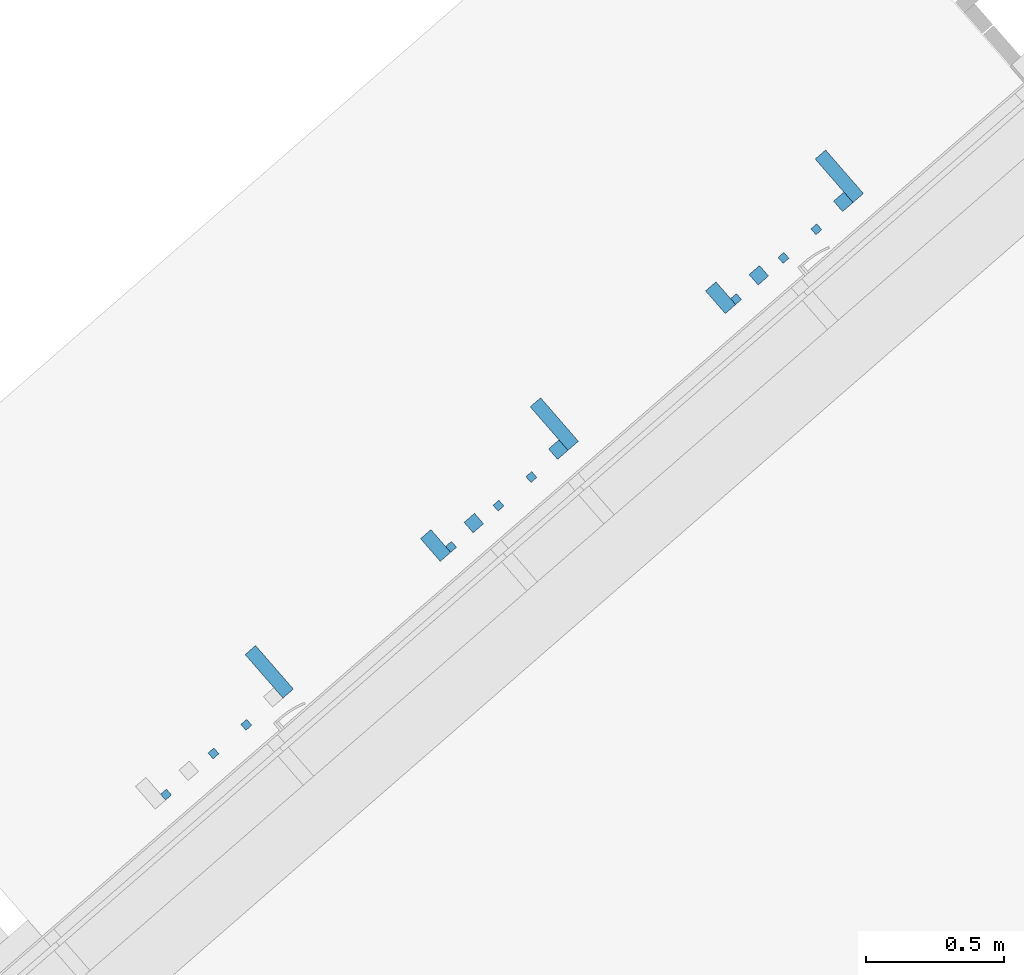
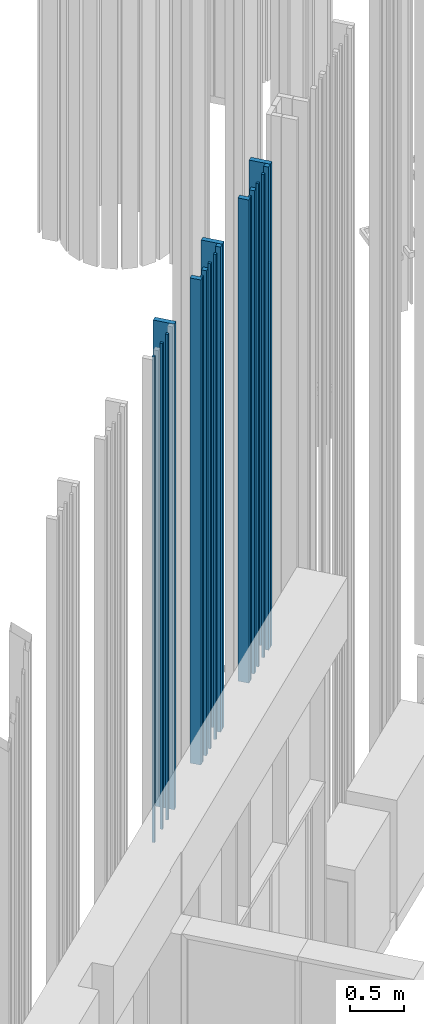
# One storey, part 222 of 390: 18 walls.
"""IFC2X3 building model written with IfcOpenShell, lengths in millimetres."""

from ifc_helpers import new_model, entity, si_unit, converted_unit, derived_unit, money_unit, direction, frame, origin_with_axes, place, context, subcontext, project, spatial, faceted_brep, material, type_object, element, save


model = new_model("IFC2X3")

# Units and contexts
model_context = context("Model", 3, precision=1e-05, world=origin_with_axes(), true_north=direction((0.0, 1.0)))
body_context = subcontext(model_context, "Body", "Model", "MODEL_VIEW")
ifc_project = project(units=[si_unit("LENGTHUNIT", "METRE", prefix="MILLI"), si_unit("AREAUNIT", "SQUARE_METRE"), si_unit("VOLUMEUNIT", "CUBIC_METRE"), converted_unit("PLANEANGLEUNIT", "DEGREE", entity("IfcPlaneAngleMeasure", 0.0174532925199), si_unit("PLANEANGLEUNIT", "RADIAN"), dimensions=[0, 0, 0, 0, 0, 0, 0]), si_unit("SOLIDANGLEUNIT", "STERADIAN"), money_unit("EUR"), converted_unit("TIMEUNIT", "Year", entity("IfcTimeMeasure", 31556926.0), si_unit("TIMEUNIT", "SECOND"), dimensions=[0, 0, 1, 0, 0, 0, 0]), si_unit("MASSUNIT", "GRAM", prefix="KILO"), si_unit("THERMODYNAMICTEMPERATUREUNIT", "DEGREE_CELSIUS"), si_unit("LUMINOUSINTENSITYUNIT", "LUMEN"), si_unit("ENERGYUNIT", "JOULE", prefix="MEGA"), derived_unit("THERMALCONDUCTANCEUNIT", [(si_unit("POWERUNIT", "WATT"), 1), (si_unit("LENGTHUNIT", "METRE"), -1), (si_unit("THERMODYNAMICTEMPERATUREUNIT", "KELVIN"), -1)]), derived_unit("SPECIFICHEATCAPACITYUNIT", [(si_unit("ENERGYUNIT", "JOULE"), 1), (si_unit("MASSUNIT", "GRAM", prefix="KILO"), -1), (si_unit("THERMODYNAMICTEMPERATUREUNIT", "KELVIN"), -1)]), derived_unit("MASSDENSITYUNIT", [(si_unit("MASSUNIT", "GRAM", prefix="KILO"), 1), (si_unit("VOLUMEUNIT", "CUBIC_METRE"), -1)])], contexts=[model_context])

# Site, building, storey
site_placement = place(None, origin_with_axes())
site = spatial("IfcSite", under=ifc_project, at=site_placement, Name="Site", CompositionType="ELEMENT")
building_placement = place(site_placement, origin_with_axes())
building = spatial("IfcBuilding", under=site, at=building_placement, Name="Building", CompositionType="ELEMENT")
storey_placement = place(building_placement, origin_with_axes())
storey = spatial("IfcBuildingStorey", under=building, at=storey_placement, Name="1 korrus", CompositionType="ELEMENT", Elevation=0.0)

# Walls
ifc_material = material(Name="Site specified")
wall_type = type_object("IfcWallType", Name="Puitfassaadi ribistik", PredefinedType="NOTDEFINED")
for number, where, z_axis, x_axis, name in (
    (1, (134319.526511, 86798.5988126, 4361.86131138), (0.0, 0.0, 1.0), (0.754709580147, 0.656059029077, 0.0), "Site specified"),
    (2, (134625.938601, 87064.9587784, 4361.86131138), (0.0, 0.0, 1.0), (0.754709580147, 0.656059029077, 0.0), "Site specified"),
):
    element("IfcWall", number, at=place(storey_placement, frame(where, z_axis=z_axis, x_axis=x_axis)), inside=storey, type_object=wall_type, material=ifc_material, Name=name, context=body_context, shape_type="Brep", body=[
        faceted_brep([(25.0, 25.0, 5503.13868862), (25.0, 25.0, 0.0), (-25.0, 25.0, 0.0), (-25.0, 25.0, 5503.13868862), (25.0, -25.0, 5503.13868862), (25.0, -25.0, 0.0), (-25.0, -25.0, 0.0), (-25.0, -25.0, 5503.13868862)], [[[0, 1, 2, 3]], [[4, 5, 1, 0]], [[2, 1, 5, 6]], [[3, 2, 6, 7]], [[4, 0, 3, 7]], [[7, 6, 5, 4]]]),
    ])
wall_1_placement = place(storey_placement, frame((134409.006505, 86861.8074414, 4361.86131138), z_axis=(0.0, 0.0, 1.0), x_axis=(0.754709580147, 0.656059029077, 0.0)))
element("IfcWall", 3, at=wall_1_placement, inside=storey, type_object=wall_type, material=ifc_material, Name="Site specified", context=body_context, shape_type="Brep", body=[
    faceted_brep([(14.0, 14.0, 5503.13868862), (14.0, 14.0, 0.0), (-14.0, 14.0, 0.0), (-14.0, 14.0, 5503.13868862), (14.0, -14.0, 5503.13868862), (14.0, -14.0, 0.0), (-14.0, -14.0, 0.0), (-14.0, -14.0, 5503.13868862)], [[[0, 1, 2, 3]], [[4, 5, 1, 0]], [[2, 1, 5, 6]], [[3, 2, 6, 7]], [[4, 0, 3, 7]], [[7, 6, 5, 4]]]),
])
wall_2_placement = place(storey_placement, frame((134180.928656, 86717.2054186, 4361.86131138), z_axis=(0.0, 0.0, 1.0), x_axis=(0.754709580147, 0.656059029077, 0.0)))
element("IfcWall", 4, at=wall_2_placement, inside=storey, type_object=wall_type, material=ifc_material, Name="Site specified", context=body_context, shape_type="Brep", body=[
    faceted_brep([(25.0, 54.5, 5503.13868862), (25.0, 54.5, 0.0), (-25.0, 54.5, 0.0), (-25.0, 54.5, 5503.13868862), (25.0, -54.5, 5503.13868862), (25.0, -54.5, 0.0), (-25.0, -54.5, 0.0), (-25.0, -54.5, 5503.13868862)], [[[0, 1, 2, 3]], [[4, 5, 1, 0]], [[2, 1, 5, 6]], [[3, 2, 6, 7]], [[4, 0, 3, 7]], [[7, 6, 5, 4]]]),
])
wall_3_placement = place(storey_placement, frame((134236.93272, 86712.2259827, 4361.86131138), z_axis=(0.0, 0.0, 1.0), x_axis=(0.754709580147, 0.656059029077, 0.0)))
element("IfcWall", 5, at=wall_3_placement, inside=storey, type_object=wall_type, material=ifc_material, Name="Site specified", context=body_context, shape_type="Brep", body=[
    faceted_brep([(14.0, 14.0, 5503.13868862), (14.0, 14.0, 0.0), (-14.0, 14.0, 0.0), (-14.0, 14.0, 5503.13868862), (14.0, -14.0, 5503.13868862), (14.0, -14.0, 0.0), (-14.0, -14.0, 0.0), (-14.0, -14.0, 5503.13868862)], [[[0, 1, 2, 3]], [[4, 5, 1, 0]], [[2, 1, 5, 6]], [[3, 2, 6, 7]], [[4, 0, 3, 7]], [[7, 6, 5, 4]]]),
])
wall_4_placement = place(storey_placement, frame((134611.517387, 87157.7611414, 4361.86131138), z_axis=(0.0, 0.0, 1.0), x_axis=(0.754709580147, 0.656059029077, 0.0)))
element("IfcWall", 6, at=wall_4_placement, inside=storey, type_object=wall_type, material=ifc_material, Name="Site specified", context=body_context, shape_type="Brep", body=[
    faceted_brep([(25.0, 104.5, 5503.13868862), (25.0, 104.5, 0.0), (-25.0, 104.5, 0.0), (-25.0, 104.5, 5503.13868862), (25.0, -104.5, 5503.13868862), (25.0, -104.5, 0.0), (-25.0, -104.5, 0.0), (-25.0, -104.5, 5503.13868862)], [[[0, 1, 2, 3]], [[4, 5, 1, 0]], [[2, 1, 5, 6]], [[3, 2, 6, 7]], [[4, 0, 3, 7]], [[7, 6, 5, 4]]]),
])
wall_5_placement = place(storey_placement, frame((135562.202743, 87864.2656378, 4383.99775101), z_axis=(0.0, 0.0, 1.0), x_axis=(0.754709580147, 0.656059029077, 0.0)))
element("IfcWall", 7, at=wall_5_placement, inside=storey, type_object=wall_type, material=ifc_material, Name="Site specified", context=body_context, shape_type="Brep", body=[
    faceted_brep([(14.0, 14.0, 5481.00224899), (14.0, 14.0, 0.0), (-14.0, 14.0, 0.0), (-14.0, 14.0, 5481.00224899), (14.0, -14.0, 5481.00224899), (14.0, -14.0, 0.0), (-14.0, -14.0, 0.0), (-14.0, -14.0, 5481.00224899)], [[[0, 1, 2, 3]], [[4, 5, 1, 0]], [[2, 1, 5, 6]], [[3, 2, 6, 7]], [[4, 0, 3, 7]], [[7, 6, 5, 4]]]),
])
wall_6_placement = place(storey_placement, frame((135645.469512, 88056.5620113, 4383.99775101), z_axis=(0.0, 0.0, 1.0), x_axis=(0.754709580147, 0.656059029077, 0.0)))
element("IfcWall", 8, at=wall_6_placement, inside=storey, type_object=wall_type, material=ifc_material, Name="Site specified", context=body_context, shape_type="Brep", body=[
    faceted_brep([(25.0, 104.5, 5481.00224899), (25.0, 104.5, 0.0), (-25.0, 104.5, 0.0), (-25.0, 104.5, 5481.00224899), (25.0, -104.5, 5481.00224899), (25.0, -104.5, 0.0), (-25.0, -104.5, 0.0), (-25.0, -104.5, 5481.00224899)], [[[0, 1, 2, 3]], [[4, 5, 1, 0]], [[2, 1, 5, 6]], [[3, 2, 6, 7]], [[4, 0, 3, 7]], [[7, 6, 5, 4]]]),
])
for number, where, z_axis, x_axis, name in (
    (9, (135353.478636, 87697.3996824, 4383.99775101), (0.0, 0.0, 1.0), (0.754709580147, 0.656059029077, 0.0), "Site specified"),
    (10, (135659.890725, 87963.7596482, 4383.99775101), (0.0, 0.0, 1.0), (0.754709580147, 0.656059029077, 0.0), "Site specified"),
):
    element("IfcWall", number, at=place(storey_placement, frame(where, z_axis=z_axis, x_axis=x_axis)), inside=storey, type_object=wall_type, material=ifc_material, Name=name, context=body_context, shape_type="Brep", body=[
        faceted_brep([(25.0, 25.0, 5481.00224899), (25.0, 25.0, 0.0), (-25.0, 25.0, 0.0), (-25.0, 25.0, 5481.00224899), (25.0, -25.0, 5481.00224899), (25.0, -25.0, 0.0), (-25.0, -25.0, 0.0), (-25.0, -25.0, 5481.00224899)], [[[0, 1, 2, 3]], [[4, 5, 1, 0]], [[2, 1, 5, 6]], [[3, 2, 6, 7]], [[4, 0, 3, 7]], [[7, 6, 5, 4]]]),
    ])
for number, where, z_axis, x_axis, name in (
    (11, (135442.958629, 87760.6083112, 4383.99775101), (0.0, 0.0, 1.0), (0.754709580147, 0.656059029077, 0.0), "Site specified"),
    (12, (135270.884845, 87611.0268525, 4383.99775101), (0.0, 0.0, 1.0), (0.754709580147, 0.656059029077, 0.0), "Site specified"),
):
    element("IfcWall", number, at=place(storey_placement, frame(where, z_axis=z_axis, x_axis=x_axis)), inside=storey, type_object=wall_type, material=ifc_material, Name=name, context=body_context, shape_type="Brep", body=[
        faceted_brep([(14.0, 14.0, 5481.00224899), (14.0, 14.0, 0.0), (-14.0, 14.0, 0.0), (-14.0, 14.0, 5481.00224899), (14.0, -14.0, 5481.00224899), (14.0, -14.0, 0.0), (-14.0, -14.0, 0.0), (-14.0, -14.0, 5481.00224899)], [[[0, 1, 2, 3]], [[4, 5, 1, 0]], [[2, 1, 5, 6]], [[3, 2, 6, 7]], [[4, 0, 3, 7]], [[7, 6, 5, 4]]]),
    ])
wall_7_placement = place(storey_placement, frame((135214.880781, 87616.0062884, 4383.99775101), z_axis=(0.0, 0.0, 1.0), x_axis=(0.754709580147, 0.656059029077, 0.0)))
element("IfcWall", 13, at=wall_7_placement, inside=storey, type_object=wall_type, material=ifc_material, Name="Site specified", context=body_context, shape_type="Brep", body=[
    faceted_brep([(25.0, 54.5, 5481.00224899), (25.0, 54.5, 0.0), (-25.0, 54.5, 0.0), (-25.0, 54.5, 5481.00224899), (25.0, -54.5, 5481.00224899), (25.0, -54.5, 0.0), (-25.0, -54.5, 0.0), (-25.0, -54.5, 5481.00224899)], [[[0, 1, 2, 3]], [[4, 5, 1, 0]], [[2, 1, 5, 6]], [[3, 2, 6, 7]], [[4, 0, 3, 7]], [[7, 6, 5, 4]]]),
])
for number, where, z_axis, x_axis, name in (
    (14, (133494.298493, 86066.6638981, 4355.77285819), (0.0, 0.0, 1.0), (0.754709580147, 0.656059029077, 0.0), "Site specified"),
    (15, (133375.05438, 85963.0065715, 4355.77285819), (0.0, 0.0, 1.0), (0.754709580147, 0.656059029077, 0.0), "Site specified"),
):
    element("IfcWall", number, at=place(storey_placement, frame(where, z_axis=z_axis, x_axis=x_axis)), inside=storey, type_object=wall_type, material=ifc_material, Name=name, context=body_context, shape_type="Brep", body=[
        faceted_brep([(14.0, 14.0, 5509.22714181), (14.0, 14.0, 0.0), (-14.0, 14.0, 0.0), (-14.0, 14.0, 5509.22714181), (14.0, -14.0, 5509.22714181), (14.0, -14.0, 0.0), (-14.0, -14.0, 0.0), (-14.0, -14.0, 5509.22714181)], [[[0, 1, 2, 3]], [[4, 5, 1, 0]], [[2, 1, 5, 6]], [[3, 2, 6, 7]], [[4, 0, 3, 7]], [[7, 6, 5, 4]]]),
    ])
wall_8_placement = place(storey_placement, frame((134528.250618, 86965.4647679, 4361.86131138), z_axis=(0.0, 0.0, 1.0), x_axis=(0.754709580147, 0.656059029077, 0.0)))
element("IfcWall", 16, at=wall_8_placement, inside=storey, type_object=wall_type, material=ifc_material, Name="Site specified", context=body_context, shape_type="Brep", body=[
    faceted_brep([(14.0, 14.0, 5503.13868862), (14.0, 14.0, 0.0), (-14.0, 14.0, 0.0), (-14.0, 14.0, 5503.13868862), (14.0, -14.0, 5503.13868862), (14.0, -14.0, 0.0), (-14.0, -14.0, 0.0), (-14.0, -14.0, 5503.13868862)], [[[0, 1, 2, 3]], [[4, 5, 1, 0]], [[2, 1, 5, 6]], [[3, 2, 6, 7]], [[4, 0, 3, 7]], [[7, 6, 5, 4]]]),
])
wall_9_placement = place(storey_placement, frame((133202.980595, 85813.4251129, 4355.77285819), z_axis=(0.0, 0.0, 1.0), x_axis=(0.754709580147, 0.656059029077, 0.0)))
element("IfcWall", 17, at=wall_9_placement, inside=storey, type_object=wall_type, material=ifc_material, Name="Site specified", context=body_context, shape_type="Brep", body=[
    faceted_brep([(14.0, 14.0, 5509.22714181), (14.0, 14.0, 0.0), (-14.0, 14.0, 0.0), (-14.0, 14.0, 5509.22714181), (14.0, -14.0, 5509.22714181), (14.0, -14.0, 0.0), (-14.0, -14.0, 0.0), (-14.0, -14.0, 5509.22714181)], [[[0, 1, 2, 3]], [[4, 5, 1, 0]], [[2, 1, 5, 6]], [[3, 2, 6, 7]], [[4, 0, 3, 7]], [[7, 6, 5, 4]]]),
])
wall_10_placement = place(storey_placement, frame((133577.565262, 86258.9602716, 4355.77285819), z_axis=(0.0, 0.0, 1.0), x_axis=(0.754709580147, 0.656059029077, 0.0)))
element("IfcWall", 18, at=wall_10_placement, inside=storey, type_object=wall_type, material=ifc_material, Name="Site specified", context=body_context, shape_type="Brep", body=[
    faceted_brep([(25.0, 104.5, 5509.22714181), (25.0, 104.5, 0.0), (-25.0, 104.5, 0.0), (-25.0, 104.5, 5509.22714181), (25.0, -104.5, 5509.22714181), (25.0, -104.5, 0.0), (-25.0, -104.5, 0.0), (-25.0, -104.5, 5509.22714181)], [[[0, 1, 2, 3]], [[4, 5, 1, 0]], [[2, 1, 5, 6]], [[3, 2, 6, 7]], [[4, 0, 3, 7]], [[7, 6, 5, 4]]]),
])

save(model, "model.ifc")
